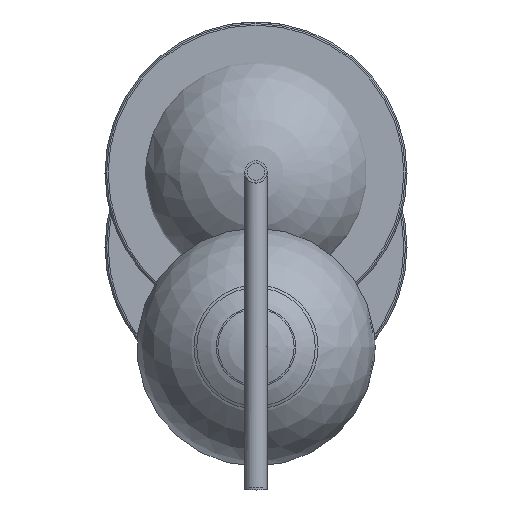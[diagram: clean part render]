
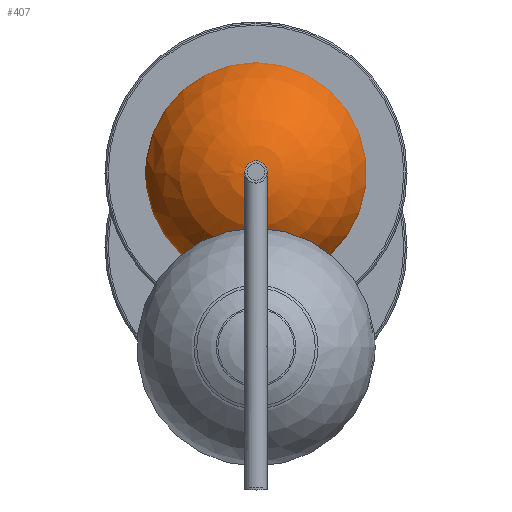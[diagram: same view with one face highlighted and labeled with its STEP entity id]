
A CAD part, top view. The second image highlights one B-rep face of the part: STEP entity #407.
In plain terms, the highlighted spherical face has radius 75 mm.
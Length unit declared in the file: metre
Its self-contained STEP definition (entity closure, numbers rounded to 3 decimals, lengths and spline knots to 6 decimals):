
#407 = ADVANCED_FACE( '', ( #515 ), #516, .T. );
#515 = FACE_OUTER_BOUND( '', #626, .T. );
#516 = SPHERICAL_SURFACE( '', #627, 0.075 );
#626 = EDGE_LOOP( '', ( #813 ) );
#627 = AXIS2_PLACEMENT_3D( '', #814, #815, #816 );
#813 = ORIENTED_EDGE( '', *, *, #865, .F. );
#814 = CARTESIAN_POINT( '', ( 0., 0., 0. ) );
#815 = DIRECTION( '', ( 0., 0., -1. ) );
#816 = DIRECTION( '', ( -1., 0., 0. ) );
#865 = EDGE_CURVE( '', #945, #945, #946, .T. );
#945 = VERTEX_POINT( '', #1169 );
#946 = CIRCLE( '', #1170, 0.025 );
#1169 = CARTESIAN_POINT( '', ( -0.025, 0., -0.070711 ) );
#1170 = AXIS2_PLACEMENT_3D( '', #1284, #1285, #1286 );
#1284 = CARTESIAN_POINT( '', ( 0., 0., -0.070711 ) );
#1285 = DIRECTION( '', ( 0., 0., -1. ) );
#1286 = DIRECTION( '', ( -1., 0., 0. ) );
